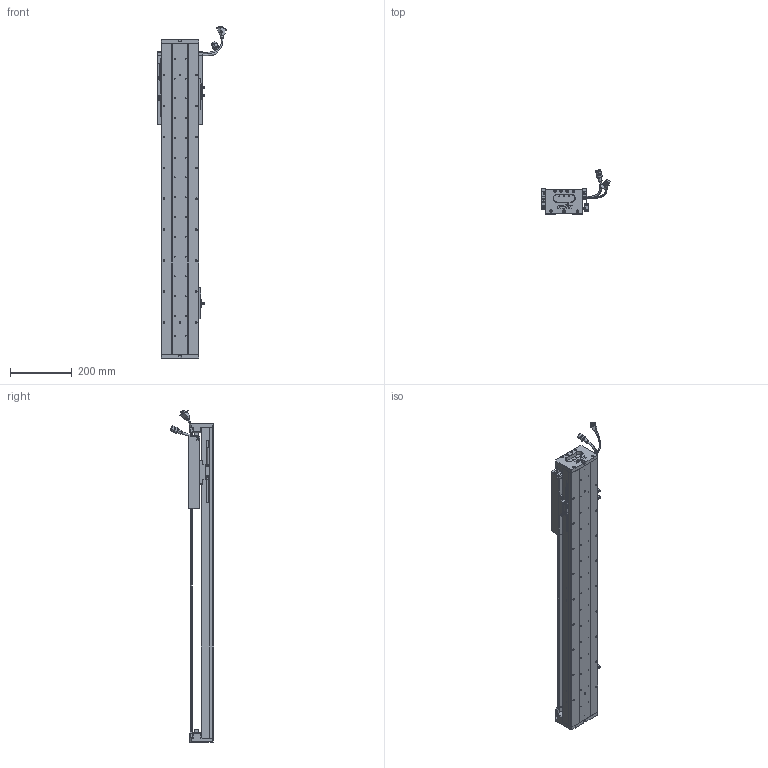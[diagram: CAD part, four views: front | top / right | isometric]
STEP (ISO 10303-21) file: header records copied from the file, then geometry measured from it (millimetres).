
FILE_DESCRIPTION (( 'STEP AP203' ), '1' );
FILE_NAME ('Z3-RY120D-1-L500-B-K.SLDASM_0700.step', '2021-05-17T05:46:21', ( '盈信电脑' ), ( '东莞市道滘镇水果街19号' ), 'SwSTEP 2.0', 'SolidWorks 2016', '' );
FILE_SCHEMA (( 'CONFIG_CONTROL_DESIGN' ));
Length unit declared in the file: millimetre
Products named in the file (37): SCREW-M1.6-3; 080黍杅芛假蚾釱21遴; SCREW-M1.7; SCALE-Part-1; 120-Z-臏賑輸盄裔(21遴); SCALE; HARNESS-Part-1; SCREW-M1.6-2; SHIELDPLATE; 覜茼ん672; LABEL; Z-RY120D詩湍狟揤裔; 140蚥薯蝶輸; SEAL-Part-1; Z3-RY120-L500詩湍100mm遵_0700; RY100FB-遵嫖萇覜茼え; Z3-RY120-500-倰第菁釱_0700; PBU_SHEET; PSLH080_PSLF2; SCALE-Part-2; HOLDER0; HARNESS; COVER; 140雄赽晤鎢ん堤盄; SCREW-M1.7-1; COVER-Part-1; Z3-RY120铝滑块（21款）; HARNESS-Part-2; Z-RY120D詩湍奻揤裔; 672嫖萇羲壽假蚾釱; SEAL; LABEL-Part-1; Z3-RY120D-1-L500-B-K.SLDASM_0700; SCREW-M1.6; SCREW-M1.6-1; 榋妏寠巭燃_暯_M2_2; Z-120詩湍傷裔啣
Assembly tree (43 placements, depth 4):
  Z3-RY120D-1-L500-B-K.SLDASM_0700
    Z3-RY120-500-倰第菁釱_0700
    覜茼ん672  x3
    672嫖萇羲壽假蚾釱  x2
    Z3-RY120铝滑块（21款）
    PSLH080_PSLF2
      SCALE
        SCALE-Part-1
        SCALE-Part-2
      HARNESS
        HARNESS-Part-1
        HARNESS-Part-2
      LABEL
        LABEL-Part-1
      COVER
        COVER-Part-1
      SEAL
        SEAL-Part-1
      榋妏寠巭燃_暯_M2_2
      SHIELDPLATE
      SCREW-M1.7
      SCREW-M1.7-1
      PBU_SHEET
      SCREW-M1.6
      SCREW-M1.6-1
      SCREW-M1.6-2
      SCREW-M1.6-3
      HOLDER0
    080黍杅芛假蚾釱21遴
    120-Z-臏賑輸盄裔(21遴)
    140雄赽晤鎢ん堤盄
    140蚥薯蝶輸  x2
    RY100FB-遵嫖萇覜茼え
    Z-120詩湍傷裔啣  x2
    Z-RY120D詩湍奻揤裔  x2
    Z-RY120D詩湍狟揤裔  x2
    Z3-RY120-L500詩湍100mm遵_0700
Bounding box: 222.88 x 140.94 x 1074 mm (x, y, z)
Volume: 3067709.1 mm3; surface area: 1015635 mm2
Topology: 38 solids, 38 shells, 2765 faces, 7439 edges, 4694 vertices
Faces by surface type: cylinder 1253, plane 1112, cone 278, torus 69, bspline 53
Entity records: 82298 total; most frequent: CARTESIAN_POINT 21627, ORIENTED_EDGE 11846, DIRECTION 11739, EDGE_CURVE 5923, AXIS2_PLACEMENT_3D 4296, VERTEX_POINT 3814, VECTOR 3147, LINE 3147
